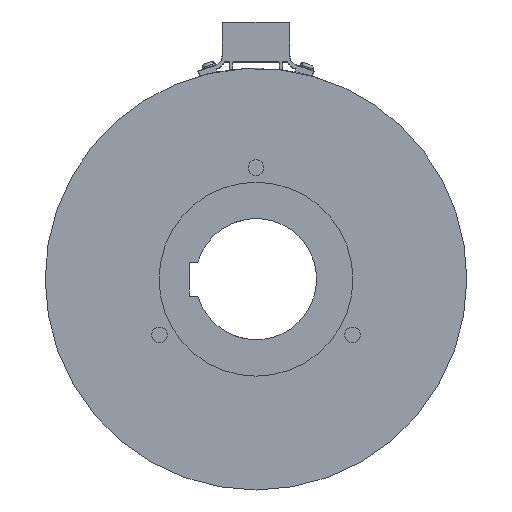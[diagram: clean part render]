
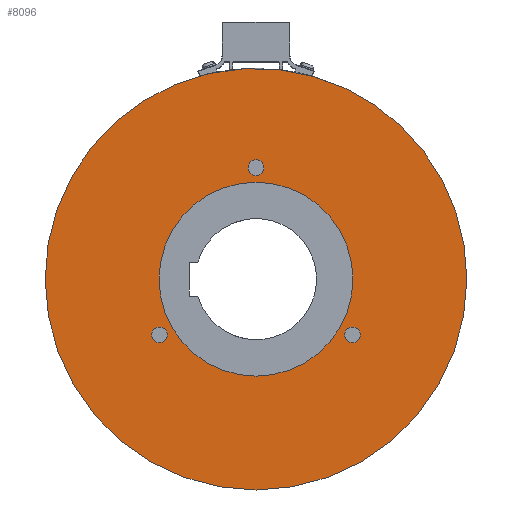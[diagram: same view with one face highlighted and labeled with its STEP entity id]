
A CAD part, left-side view. The second image highlights one B-rep face of the part: STEP entity #8096.
In plain terms, the highlighted planar face has unit normal (-1, 0, 0).
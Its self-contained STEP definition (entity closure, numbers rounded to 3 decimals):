
#235=PLANE('',#9183);
#313=FACE_BOUND('',#1279,.T.);
#314=FACE_BOUND('',#1280,.T.);
#315=FACE_BOUND('',#1281,.T.);
#316=FACE_BOUND('',#1282,.T.);
#781=FACE_OUTER_BOUND('',#1278,.T.);
#1278=EDGE_LOOP('',(#6936,#6937,#6938));
#1279=EDGE_LOOP('',(#6939));
#1280=EDGE_LOOP('',(#6940));
#1281=EDGE_LOOP('',(#6941));
#1282=EDGE_LOOP('',(#6942,#6943));
#1313=CIRCLE('',#8141,87.);
#1314=CIRCLE('',#8142,87.);
#1617=CIRCLE('',#8689,87.);
#1955=CIRCLE('',#9184,3.25);
#1956=CIRCLE('',#9185,3.25);
#1957=CIRCLE('',#9186,3.25);
#1958=CIRCLE('',#9187,40.);
#1959=CIRCLE('',#9188,40.);
#2823=VERTEX_POINT('',#11895);
#2828=VERTEX_POINT('',#11905);
#2829=VERTEX_POINT('',#11907);
#3542=VERTEX_POINT('',#14754);
#3543=VERTEX_POINT('',#14756);
#3544=VERTEX_POINT('',#14758);
#3545=VERTEX_POINT('',#14760);
#3546=VERTEX_POINT('',#14761);
#3596=EDGE_CURVE('',#2829,#2828,#1313,.T.);
#3597=EDGE_CURVE('',#2823,#2829,#1314,.T.);
#4229=EDGE_CURVE('',#2828,#2823,#1617,.T.);
#4702=EDGE_CURVE('',#3542,#3542,#1955,.T.);
#4703=EDGE_CURVE('',#3543,#3543,#1956,.T.);
#4704=EDGE_CURVE('',#3544,#3544,#1957,.T.);
#4705=EDGE_CURVE('',#3545,#3546,#1958,.T.);
#4706=EDGE_CURVE('',#3546,#3545,#1959,.T.);
#6936=ORIENTED_EDGE('',*,*,#3596,.T.);
#6937=ORIENTED_EDGE('',*,*,#4229,.T.);
#6938=ORIENTED_EDGE('',*,*,#3597,.T.);
#6939=ORIENTED_EDGE('',*,*,#4702,.T.);
#6940=ORIENTED_EDGE('',*,*,#4703,.T.);
#6941=ORIENTED_EDGE('',*,*,#4704,.T.);
#6942=ORIENTED_EDGE('',*,*,#4705,.F.);
#6943=ORIENTED_EDGE('',*,*,#4706,.F.);
#8096=ADVANCED_FACE('',(#781,#313,#314,#315,#316),#235,.T.);
#8141=AXIS2_PLACEMENT_3D('',#11908,#9264,#9265);
#8142=AXIS2_PLACEMENT_3D('',#11909,#9266,#9267);
#8689=AXIS2_PLACEMENT_3D('',#13710,#10625,#10626);
#9183=AXIS2_PLACEMENT_3D('',#14753,#11739,#11740);
#9184=AXIS2_PLACEMENT_3D('',#14755,#11741,#11742);
#9185=AXIS2_PLACEMENT_3D('',#14757,#11743,#11744);
#9186=AXIS2_PLACEMENT_3D('',#14759,#11745,#11746);
#9187=AXIS2_PLACEMENT_3D('',#14762,#11747,#11748);
#9188=AXIS2_PLACEMENT_3D('',#14763,#11749,#11750);
#9264=DIRECTION('center_axis',(-1.,0.,0.));
#9265=DIRECTION('ref_axis',(0.,1.,0.));
#9266=DIRECTION('center_axis',(-1.,0.,0.));
#9267=DIRECTION('ref_axis',(0.,1.,0.));
#10625=DIRECTION('center_axis',(-1.,0.,0.));
#10626=DIRECTION('ref_axis',(0.,1.,0.));
#11739=DIRECTION('center_axis',(-1.,0.,0.));
#11740=DIRECTION('ref_axis',(0.,0.,
1.));
#11741=DIRECTION('center_axis',(1.,0.,0.));
#11742=DIRECTION('ref_axis',(0.,0.,
-1.));
#11743=DIRECTION('center_axis',(1.,0.,0.));
#11744=DIRECTION('ref_axis',(0.,0.,
-1.));
#11745=DIRECTION('center_axis',(1.,0.,0.));
#11746=DIRECTION('ref_axis',(0.,0.,
-1.));
#11747=DIRECTION('center_axis',(-1.,0.,0.));
#11748=DIRECTION('ref_axis',(0.,1.,0.));
#11749=DIRECTION('center_axis',(-1.,0.,0.));
#11750=DIRECTION('ref_axis',(0.,1.,0.));
#11895=CARTESIAN_POINT('',(-25.05,-9.696,86.46));
#11905=CARTESIAN_POINT('',(-25.05,-87.018,0.));
#11907=CARTESIAN_POINT('',(-25.05,86.982,0.));
#11908=CARTESIAN_POINT('Origin',(-25.05,-0.018,0.));
#11909=CARTESIAN_POINT('Origin',(-25.05,-0.018,0.));
#13710=CARTESIAN_POINT('Origin',(-25.05,-0.018,0.));
#14753=CARTESIAN_POINT('Origin',(-25.05,63.482,0.));
#14754=CARTESIAN_POINT('',(-25.05,-39.855,-19.75));
#14755=CARTESIAN_POINT('Origin',(-25.05,-39.855,-23.));
#14756=CARTESIAN_POINT('',(-25.05,-0.018,49.25));
#14757=CARTESIAN_POINT('Origin',(-25.05,-0.018,46.));
#14758=CARTESIAN_POINT('',(-25.05,39.819,-19.75));
#14759=CARTESIAN_POINT('Origin',(-25.05,39.819,-23.));
#14760=CARTESIAN_POINT('',(-25.05,39.982,0.));
#14761=CARTESIAN_POINT('',(-25.05,-40.018,0.));
#14762=CARTESIAN_POINT('Origin',(-25.05,-0.018,0.));
#14763=CARTESIAN_POINT('Origin',(-25.05,-0.018,0.));
